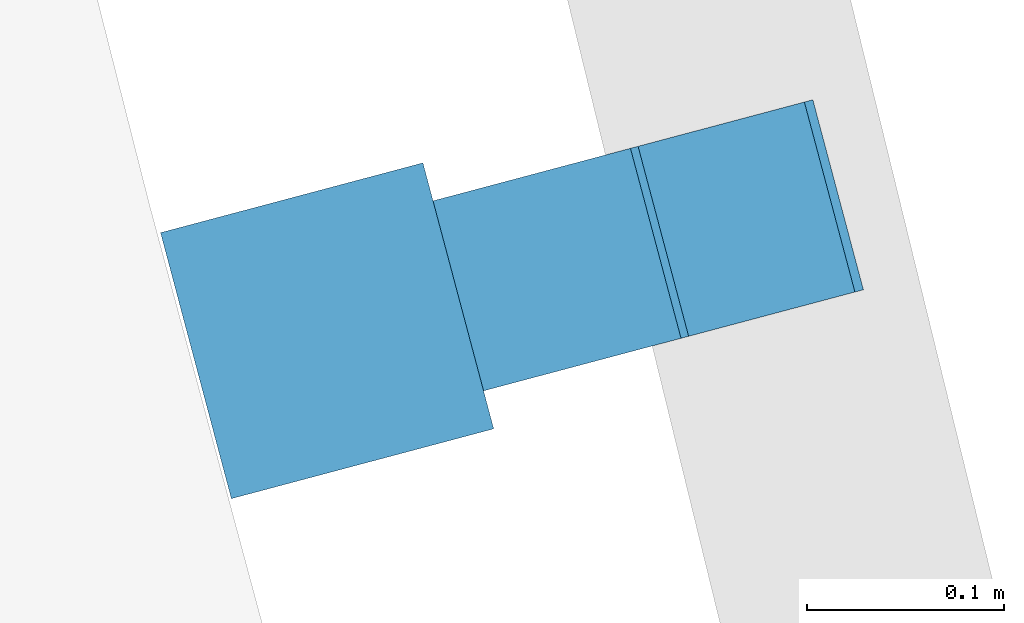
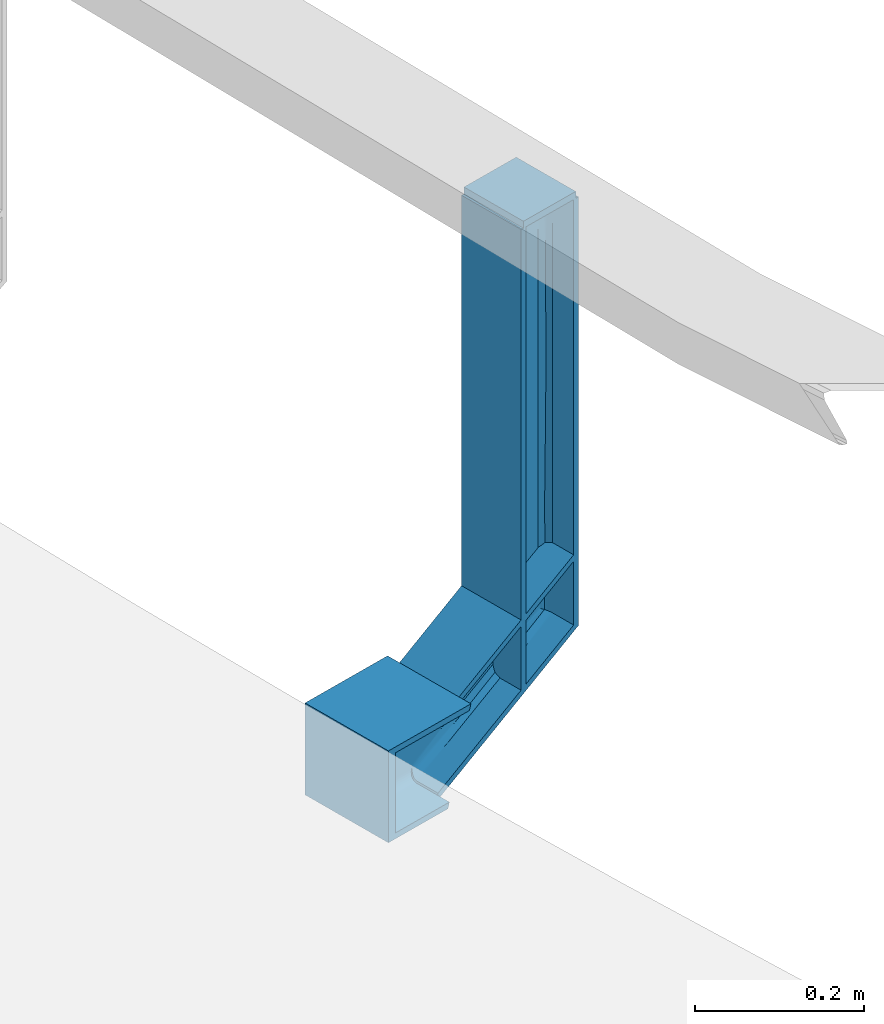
# One storey, part 37 of 68: 1 beam.
"""IFC2X3 building model written with IfcOpenShell, lengths in millimetres."""

from ifc_helpers import new_model, entity, si_unit, converted_unit, derived_unit, direction, frame, origin, place, context, subcontext, project, spatial, faceted_brep, source, transform, mapped, material, type_object, type_shapes, element, save


model = new_model("IFC2X3")

# Units and contexts
model_context = context("Model", 3, precision=0.01, world=origin(), true_north=direction((6.12303176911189e-17, 1.0)))
body_context = subcontext(model_context, "Body", "Model", "MODEL_VIEW")
ifc_project = project(units=[si_unit("LENGTHUNIT", "METRE", prefix="MILLI"), si_unit("AREAUNIT", "SQUARE_METRE", prefix="MILLI"), si_unit("VOLUMEUNIT", "CUBIC_METRE"), converted_unit("PLANEANGLEUNIT", "DEGREE", entity("IfcRatioMeasure", 0.0174532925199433), si_unit("PLANEANGLEUNIT", "RADIAN"), dimensions=[0, 0, 0, 0, 0, 0, 0]), si_unit("MASSUNIT", "GRAM", prefix="KILO"), derived_unit("MASSDENSITYUNIT", [(si_unit("MASSUNIT", "GRAM", prefix="KILO"), 1), (si_unit("LENGTHUNIT", "METRE"), -3)]), derived_unit("MOMENTOFINERTIAUNIT", [(si_unit("LENGTHUNIT", "METRE"), 4)]), si_unit("TIMEUNIT", "SECOND"), si_unit("FREQUENCYUNIT", "HERTZ"), si_unit("THERMODYNAMICTEMPERATUREUNIT", "DEGREE_CELSIUS"), derived_unit("THERMALTRANSMITTANCEUNIT", [(si_unit("MASSUNIT", "GRAM", prefix="KILO"), 1), (si_unit("THERMODYNAMICTEMPERATUREUNIT", "KELVIN"), -1), (si_unit("TIMEUNIT", "SECOND"), -3)]), derived_unit("VOLUMETRICFLOWRATEUNIT", [(si_unit("LENGTHUNIT", "METRE"), 3), (si_unit("TIMEUNIT", "SECOND"), -1)]), si_unit("ELECTRICCURRENTUNIT", "AMPERE"), si_unit("ELECTRICVOLTAGEUNIT", "VOLT"), si_unit("POWERUNIT", "WATT"), si_unit("FORCEUNIT", "NEWTON", prefix="KILO"), si_unit("ILLUMINANCEUNIT", "LUX"), si_unit("LUMINOUSFLUXUNIT", "LUMEN"), si_unit("LUMINOUSINTENSITYUNIT", "CANDELA"), derived_unit("USERDEFINED", [(si_unit("MASSUNIT", "GRAM", prefix="KILO"), -1), (si_unit("LENGTHUNIT", "METRE"), -2), (si_unit("TIMEUNIT", "SECOND"), 3), (si_unit("LUMINOUSFLUXUNIT", "LUMEN"), 1)]), derived_unit("LINEARVELOCITYUNIT", [(si_unit("LENGTHUNIT", "METRE"), 1), (si_unit("TIMEUNIT", "SECOND"), -1)]), si_unit("PRESSUREUNIT", "PASCAL"), derived_unit("USERDEFINED", [(si_unit("LENGTHUNIT", "METRE"), -2), (si_unit("MASSUNIT", "GRAM", prefix="KILO"), 1), (si_unit("TIMEUNIT", "SECOND"), -2)]), derived_unit("LINEARFORCEUNIT", [(si_unit("MASSUNIT", "GRAM", prefix="KILO"), 1), (si_unit("LENGTHUNIT", "METRE"), 1), (si_unit("TIMEUNIT", "SECOND"), -2), (si_unit("LENGTHUNIT", "METRE"), -1)]), derived_unit("PLANARFORCEUNIT", [(si_unit("MASSUNIT", "GRAM", prefix="KILO"), 1), (si_unit("LENGTHUNIT", "METRE"), 1), (si_unit("TIMEUNIT", "SECOND"), -2), (si_unit("LENGTHUNIT", "METRE"), -2)])], contexts=[model_context])

# Site, building, storey
site_placement = place(None, origin())
site = spatial("IfcSite", under=ifc_project, at=site_placement, Name="Theater aan de Parade", CompositionType="ELEMENT")
building_placement = place(site_placement, origin())
building = spatial("IfcBuilding", under=site, at=building_placement, Name="Theater aan de Parade", CompositionType="ELEMENT")
storey_placement = place(building_placement, frame((0.0, 0.0, 8750.0)))
storey = spatial("IfcBuildingStorey", under=building, at=storey_placement, Name="02 tweede verdieping", CompositionType="ELEMENT", Elevation=8750.0)

# Beam
ifc_material = material(Name="00_PBT_MAT_staal_S355")
beam_type = type_object("IfcBeamType", Name="28_PBT_SF_staal_baluster balkon:baluster HEA100", PredefinedType="BEAM", material=ifc_material)
shared_shape = source(origin(), body_context, "Body", "Brep", [
    faceted_brep([(50.0, 43.537813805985, 625.0), (50.0, 43.537813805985, 635.0), (50.0, -44.0, 635.0), (50.0, -44.0, 625.0), (-50.0, 43.537813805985, 625.0), (-50.0, -44.0, 625.0), (-50.0, -44.0, 635.0), (-50.0, 43.537813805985, 635.0)], [[[0, 1, 2, 3]], [[4, 5, 6, 7]], [[3, 5, 4, 0]], [[2, 6, 5, 3]], [[1, 7, 6, 2]], [[0, 4, 7, 1]]]),
    faceted_brep([(70.0, -278.0, -133.0), (70.0, -278.0, 0.0), (70.0, -290.0, 0.0), (70.0, -290.0, -133.0), (-70.0, -278.0, -133.0), (-70.0, -290.0, -133.0), (-70.0, -290.0, 0.0), (-70.0, -278.0, 0.0)], [[[0, 1, 2, 3]], [[4, 5, 6, 7]], [[3, 5, 4, 0]], [[2, 6, 5, 3]], [[1, 7, 6, 2]], [[0, 4, 7, 1]]]),
    faceted_brep([(70.0, -278.0, -133.0), (70.0, -278.0, -124.5), (14.7499999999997, -278.0, -124.5), (11.6441714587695, -278.0, -124.091109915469), (8.74999999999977, -278.0, -122.892304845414), (6.26471862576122, -278.0, -120.985281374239), (4.35769515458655, -278.0, -118.5), (3.15889008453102, -278.0, -115.60582854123), (2.74999999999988, -278.0, -112.5), (2.74999999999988, -278.0, -20.5000000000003), (3.15889008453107, -278.0, -17.39417145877), (4.35769515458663, -278.0, -14.5000000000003), (6.26471862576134, -278.0, -12.0147186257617), (8.74999999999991, -278.0, -10.107695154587), (11.6441714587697, -278.0, -8.90889008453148), (14.7499999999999, -278.0, -8.50000000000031), (70.0, -278.0, -8.50000000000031), (70.0, -278.0, 0.0), (-70.0, -278.0, 0.0), (-70.0, -278.0, -8.50000000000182), (-14.7499999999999, -278.0, -8.50000000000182), (-11.6441714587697, -278.0, -8.90889008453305), (-8.74999999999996, -278.0, -10.1076951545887), (-6.26471862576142, -278.0, -12.0147186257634), (-4.35769515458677, -278.0, -14.500000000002), (-3.15889008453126, -278.0, -17.3941714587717), (-2.75000000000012, -278.0, -20.5000000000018), (-2.75000000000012, -278.0, -112.500000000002), (-3.15889008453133, -278.0, -115.605828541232), (-4.3576951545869, -278.0, -118.500000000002), (-6.26471862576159, -278.0, -120.98528137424), (-8.75000000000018, -278.0, -122.892304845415), (-11.6441714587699, -278.0, -124.091109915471), (-14.7500000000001, -278.0, -124.500000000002), (-70.0, -278.0, -124.500000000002), (-70.0, -278.0, -133.0), (70.0, -154.37480362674, -8.50000000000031), (70.0, -151.923048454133, 0.0), (70.0, -190.285805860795, -133.0), (70.0, -187.834050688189, -124.5), (14.7499999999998, -214.852904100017, -8.50000000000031), (14.7499999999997, -154.37480362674, -8.50000000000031), (-70.0, -154.37480362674, -8.50000000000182), (-14.7500000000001, -154.37480362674, -8.50000000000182), (-14.7500000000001, -214.852905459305, -8.50000000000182), (6.43965673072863, -216.327371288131, -11.8433150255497), (2.74999999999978, -217.521904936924, -20.5000000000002), (12.079748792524, -154.461585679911, -8.8008650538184), (9.5433951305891, -154.717580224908, -9.68837358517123), (5.36802221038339, -155.678018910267, -13.0181223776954), (7.26812237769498, -155.129950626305, -11.1180222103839), (2.74999999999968, -157.83610504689, -20.5000000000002), (3.05086505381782, -157.065893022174, -17.8297487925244), (3.9383735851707, -156.334302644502, -15.2933951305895), (2.74999999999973, -184.372749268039, -112.5), (3.93837358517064, -185.874551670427, -117.706604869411), (3.05086505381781, -185.142961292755, -115.170251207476), (5.36802221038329, -186.530835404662, -119.981877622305), (7.26812237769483, -187.078903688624, -121.881977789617), (9.54339513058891, -187.491274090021, -123.311626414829), (12.0797487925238, -187.747268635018, -124.199134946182), (14.7499999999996, -187.834050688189, -124.5), (-14.7500000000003, -187.83405068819, -124.500000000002), (-70.0, -187.83405068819, -124.500000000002), (-70.0, -190.285805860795, -133.0), (-70.0, -151.923048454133, 0.0), (-9.54339513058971, -187.491274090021, -123.311626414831), (-12.0797487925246, -187.747268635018, -124.199134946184), (-7.2681223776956, -187.078903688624, -121.881977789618), (-5.36802221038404, -186.530835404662, -119.981877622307), (-3.93837358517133, -185.874551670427, -117.706604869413), (-3.05086505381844, -185.142961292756, -115.170251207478), (-2.75000000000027, -184.37274926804, -112.500000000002), (-2.75000000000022, -217.521899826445, -20.500000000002), (-2.75000000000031, -157.83610504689, -20.500000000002), (-6.43965718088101, -216.327373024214, -11.8433145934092), (-3.05086505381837, -157.065893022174, -17.8297487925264), (-3.93837358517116, -156.334302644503, -15.2933951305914), (-7.2681223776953, -155.129950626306, -11.1180222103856), (-5.36802221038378, -155.678018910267, -13.0181223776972), (-12.0797487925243, -154.461585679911, -8.80086505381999), (-9.54339513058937, -154.717580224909, -9.68837358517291)], [[[0, 1, 2, 3, 4, 5, 6, 7, 8, 9, 10, 11, 12, 13, 14, 15, 16, 17, 18, 19, 20, 21, 22, 23, 24, 25, 26, 27, 28, 29, 30, 31, 32, 33, 34, 35]], [[36, 37, 17, 16]], [[38, 39, 1, 0]], [[36, 16, 15, 40, 41]], [[19, 42, 43, 44, 20]], [[13, 45, 14]], [[12, 45, 13]], [[46, 45, 11]], [[47, 41, 40]], [[14, 40, 15]], [[45, 12, 11]], [[48, 47, 40]], [[49, 50, 45]], [[10, 9, 46]], [[40, 45, 48]], [[11, 10, 46]], [[46, 51, 52]], [[53, 46, 52]], [[46, 53, 45]], [[45, 53, 49]], [[45, 50, 48]], [[14, 45, 40]], [[54, 51, 46, 9, 8]], [[7, 6, 55]], [[8, 7, 56]], [[56, 54, 8]], [[57, 55, 6]], [[56, 7, 55]], [[6, 5, 57]], [[58, 5, 4]], [[59, 4, 3]], [[60, 3, 2]], [[59, 58, 4]], [[61, 60, 2]], [[59, 3, 60]], [[5, 58, 57]], [[39, 61, 2, 1]], [[62, 63, 34, 33]], [[38, 0, 35, 64]], [[64, 35, 34, 63]], [[42, 19, 18, 65]], [[32, 31, 66]], [[33, 32, 67]], [[67, 62, 33]], [[68, 66, 31]], [[67, 32, 66]], [[31, 30, 68]], [[69, 30, 29]], [[70, 29, 28]], [[71, 28, 27]], [[70, 69, 29]], [[72, 71, 27]], [[70, 28, 71]], [[30, 69, 68]], [[72, 27, 26, 73, 74]], [[25, 24, 73]], [[24, 23, 75]], [[75, 22, 21]], [[76, 74, 73]], [[75, 23, 22]], [[73, 77, 76]], [[78, 79, 75]], [[44, 80, 81]], [[73, 75, 77]], [[25, 73, 26]], [[21, 44, 75]], [[21, 20, 44]], [[43, 80, 44]], [[44, 81, 75]], [[78, 75, 81]], [[75, 79, 77]], [[73, 24, 75]], [[37, 65, 18, 17]], [[39, 38, 64, 63, 62, 67, 66, 68, 69, 70, 71, 72, 74, 76, 77, 79, 78, 81, 80, 43, 42, 65, 37, 36, 41, 47, 48, 50, 49, 53, 52, 51, 54, 56, 55, 57, 58, 59, 60, 61]]]),
    faceted_brep([(50.0, 48.0, 106.188021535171), (50.0, 48.0, 115.425625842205), (50.0, -151.923048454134, 0.0), (50.0, -155.119944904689, -11.0833333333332), (50.0, 48.0, 4.57437415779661), (50.0, 48.0, 13.8119784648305), (50.0, -187.08890941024, -121.916666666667), (50.0, -190.285805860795, -133.0), (14.4999999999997, -155.119944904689, -11.0833333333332), (14.4999999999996, -56.7511342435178, 45.7099259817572), (14.4999999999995, -4.37557443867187, 75.9489695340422), (14.4999999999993, 48.0, 106.188021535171), (-50.0, -155.119944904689, -11.0833333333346), (-50.0, 48.0, 106.188021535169), (-14.5000000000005, 48.0, 106.188021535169), (-14.5000000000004, -4.37556718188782, 75.9489737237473), (-14.5000000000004, -56.7511343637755, 45.7099259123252), (-14.5000000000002, -155.119944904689, -11.0833333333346), (9.9077988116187, -155.484968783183, -12.348836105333), (6.13940978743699, -85.6560198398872, 25.1051305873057), (12.1589161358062, -155.212086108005, -11.4027780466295), (2.49999999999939, -4.37556820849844, 62.0925666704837), (2.49999999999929, 48.0, 92.3316150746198), (2.80086505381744, 48.0, 95.4149555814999), (6.04197655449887, -10.2229142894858, 68.5459327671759), (2.49999999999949, -55.1641531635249, 32.769763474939), (2.73057663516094, -158.979764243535, -24.4649567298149), (2.49999999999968, -159.915289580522, -27.7083333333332), (2.49999999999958, -107.539721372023, 2.53071507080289), (7.83315720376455, -155.92810620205, -13.8851510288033), (11.8297487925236, 48.0, 105.840612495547), (4.52236465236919, -157.25113882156, -18.4719782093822), (3.41344560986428, -158.0801906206, -21.3462212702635), (5.11802221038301, 48.0, 100.970943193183), (7.01812237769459, 48.0, 103.164989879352), (3.68837358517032, 48.0, 98.3436845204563), (9.29339513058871, 48.0, 104.815805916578), (6.01471862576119, -156.524468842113, -15.9526830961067), (2.49999999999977, -182.293564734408, -105.291666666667), (2.49999999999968, -129.917998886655, -75.052619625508), (2.49999999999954, -56.7511354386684, -32.8097113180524), (2.49999999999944, -4.3755695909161, -2.57066427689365), (2.49999999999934, 48.0, 27.6683849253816), (6.01471862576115, -185.684385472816, -117.047316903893), (6.30956465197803, -103.743785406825, -70.0679088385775), (4.52236465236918, -184.957715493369, -114.528021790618), (7.83315720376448, -186.280748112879, -119.114848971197), (9.90779881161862, -186.723885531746, -120.651163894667), (14.4999999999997, -134.713341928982, -91.677618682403), (12.1589161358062, -186.996768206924, -121.597221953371), (14.4999999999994, -4.37556748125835, -16.4270695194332), (5.87838992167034, -26.389988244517, -24.9186641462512), (14.4999999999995, -69.5444547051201, -54.0523441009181), (5.11802221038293, 48.0, 19.0290568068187), (3.4134456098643, -184.128663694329, -111.653778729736), (2.80086505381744, 48.0, 24.5850444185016), (3.68837358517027, 48.0, 21.6563154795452), (14.4999999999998, -187.08890941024, -121.916666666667), (7.01812237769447, 48.0, 16.8350101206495), (9.29339513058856, 48.0, 15.1841940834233), (2.73057663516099, -183.229090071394, -108.535043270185), (11.8297487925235, 48.0, 14.1593875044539), (14.4999999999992, 48.0, 13.8119784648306), (-50.0, -187.088909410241, -121.916666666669), (-14.5000000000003, -187.088909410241, -121.916666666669), (-14.5000000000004, -134.713341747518, -91.6776185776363), (-14.5000000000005, -69.544456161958, -54.0523449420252), (-14.5000000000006, -4.37556766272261, -16.427069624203), (-14.5000000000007, 48.0, 13.8119784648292), (-50.0, 48.0, 13.8119784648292), (-50.0, -190.285805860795, -133.0), (-50.0, 48.0, 4.57437415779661), (-50.0, -151.923048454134, 0.0), (-50.0, 48.0, 115.425625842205), (-6.30956482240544, -103.743788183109, -70.0679106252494), (-4.52236465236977, -184.95771549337, -114.52802179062), (-3.41344560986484, -184.128663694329, -111.653778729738), (-2.50000000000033, -129.917995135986, -75.0526174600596), (-5.87838988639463, -26.3899865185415, -24.9186631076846), (-7.01812237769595, 48.0, 16.835010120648), (-9.29339513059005, 48.0, 15.1841940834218), (-6.01471862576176, -185.684385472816, -117.047316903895), (-7.8331572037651, -186.28074811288, -119.114848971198), (-11.829748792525, 48.0, 14.1593875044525), (-2.50000000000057, -4.37556959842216, -2.57066428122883), (-5.11802221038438, 48.0, 19.0290568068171), (-2.7305766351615, -183.229090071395, -108.535043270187), (-2.50000000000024, -182.293564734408, -105.291666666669), (-9.90779881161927, -186.723885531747, -120.651163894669), (-12.1589161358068, -186.996768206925, -121.597221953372), (-2.50000000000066, 48.0, 27.6683849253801), (-2.80086505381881, 48.0, 24.5850444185), (-2.50000000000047, -56.7511295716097, -32.809707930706), (-3.68837358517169, 48.0, 21.6563154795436), (-2.50000000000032, -159.915289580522, -27.708333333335), (-2.50000000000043, -107.539724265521, 2.53071340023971), (-2.50000000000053, -55.1641511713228, 32.7697646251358), (-2.50000000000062, -4.37556531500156, 62.0925683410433), (-2.50000000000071, 48.0, 92.3316150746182), (-2.73057663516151, -158.979764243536, -24.464956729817), (-11.8297487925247, 48.0, 105.840612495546), (-7.83315720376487, -155.92810620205, -13.885151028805), (-6.13940988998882, -85.6560228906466, 25.1051289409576), (-6.01471862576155, -156.524468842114, -15.9526830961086), (-6.04197656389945, -10.2229155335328, 68.5459320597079), (-7.0181223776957, 48.0, 103.16498987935), (-5.11802221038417, 48.0, 100.970943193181), (-9.90779881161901, -155.484968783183, -12.3488361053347), (-4.52236465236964, -157.25113882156, -18.4719782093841), (-3.68837358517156, 48.0, 98.3436845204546), (-2.80086505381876, 48.0, 95.4149555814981), (-12.1589161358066, -155.212086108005, -11.402778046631), (-3.41344560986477, -158.080190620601, -21.3462212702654), (-9.29339513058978, 48.0, 104.815805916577)], [[[0, 1, 2, 3]], [[4, 5, 6, 7]], [[0, 3, 8, 9, 10, 11]], [[12, 13, 14, 15, 16, 17]], [[18, 19, 20]], [[21, 22, 23]], [[24, 25, 21]], [[26, 27, 28]], [[19, 18, 29]], [[25, 19, 28]], [[9, 24, 10]], [[20, 9, 8]], [[19, 9, 20]], [[19, 24, 9]], [[25, 24, 19]], [[30, 11, 10]], [[28, 31, 32]], [[24, 33, 34]], [[33, 24, 35]], [[35, 24, 21]], [[36, 24, 34]], [[28, 32, 26]], [[31, 19, 37]], [[30, 10, 36]], [[31, 28, 19]], [[35, 21, 23]], [[36, 10, 24]], [[37, 19, 29]], [[27, 38, 39, 40, 41, 42, 22, 21, 25, 28]], [[43, 44, 45]], [[46, 47, 48]], [[48, 47, 49]], [[50, 51, 52]], [[53, 41, 51]], [[54, 45, 44]], [[55, 42, 41]], [[55, 41, 56]], [[49, 57, 48]], [[40, 39, 44]], [[58, 53, 51]], [[43, 46, 44]], [[51, 59, 58]], [[39, 54, 44]], [[54, 39, 60]], [[40, 44, 51]], [[61, 50, 62]], [[41, 40, 51]], [[44, 48, 52]], [[44, 46, 48]], [[56, 41, 53]], [[39, 38, 60]], [[59, 50, 61]], [[51, 44, 52]], [[51, 50, 59]], [[5, 62, 50, 52, 48, 57, 6]], [[63, 64, 65, 66, 67, 68, 69]], [[4, 7, 70, 71]], [[71, 70, 63, 69]], [[13, 12, 72, 73]], [[66, 65, 74]], [[75, 76, 74]], [[77, 74, 76]], [[78, 79, 80]], [[81, 74, 82]], [[83, 67, 80]], [[78, 84, 85]], [[86, 87, 77]], [[88, 82, 65]], [[88, 65, 89]], [[84, 90, 91]], [[66, 74, 78]], [[78, 80, 67]], [[92, 78, 74]], [[83, 68, 67]], [[84, 78, 92]], [[93, 84, 91]], [[93, 85, 84]], [[74, 65, 82]], [[78, 85, 79]], [[64, 89, 65]], [[74, 81, 75]], [[74, 77, 92]], [[86, 77, 76]], [[66, 78, 67]], [[94, 95, 96, 97, 98, 90, 84, 92, 77, 87]], [[94, 99, 95]], [[15, 14, 100]], [[101, 102, 103]], [[104, 105, 106]], [[107, 102, 101]], [[103, 102, 108]], [[16, 104, 102]], [[104, 96, 102]], [[102, 95, 108]], [[109, 110, 97]], [[107, 111, 102]], [[96, 104, 97]], [[109, 104, 106]], [[112, 95, 99]], [[16, 15, 104]], [[95, 112, 108]], [[113, 15, 100]], [[16, 102, 111]], [[97, 104, 109]], [[102, 96, 95]], [[113, 104, 15]], [[111, 17, 16]], [[105, 104, 113]], [[110, 98, 97]], [[1, 73, 72, 2]], [[5, 4, 71, 69, 68, 83, 80, 79, 85, 93, 91, 90, 98, 110, 109, 106, 105, 113, 100, 14, 13, 73, 1, 0, 11, 30, 36, 34, 33, 35, 23, 22, 42, 55, 56, 53, 58, 59, 61, 62]], [[3, 2, 72, 12, 17, 111, 107, 101, 103, 108, 112, 99, 94, 87, 86, 76, 75, 81, 82, 88, 89, 64, 63, 70, 7, 6, 57, 49, 47, 46, 43, 45, 54, 60, 38, 27, 26, 32, 31, 37, 29, 18, 20, 8]]]),
    faceted_brep([(50.0, -48.0, 625.0), (50.0, -40.0, 625.0), (14.4999999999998, -40.0, 625.0), (11.3941714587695, -39.5911099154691, 625.0), (8.4999999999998, -38.3923048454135, 625.0), (6.01471862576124, -36.4852813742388, 625.0), (4.10769515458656, -34.0, 625.0), (2.90889008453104, -31.1058285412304, 625.0), (2.49999999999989, -28.0, 625.0), (2.49999999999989, 28.0, 625.0), (2.90889008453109, 31.10582854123, 625.0), (4.10769515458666, 34.0, 625.0), (6.01471862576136, 36.4852813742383, 625.0), (8.49999999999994, 38.392304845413, 625.0), (11.3941714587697, 39.5911099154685, 625.0), (14.4999999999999, 40.0, 625.0), (50.0, 40.0, 625.0), (50.0, 48.0, 625.0), (-50.0, 48.0, 625.0), (-50.0, 40.0, 625.0), (-14.4999999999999, 40.0, 625.0), (-11.3941714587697, 39.5911099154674, 625.0), (-8.49999999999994, 38.3923048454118, 625.0), (-6.01471862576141, 36.4852813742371, 625.0), (-4.10769515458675, 34.0, 625.0), (-2.90889008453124, 31.1058285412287, 625.0), (-2.50000000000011, 28.0, 625.0), (-2.5000000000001, -28.0, 625.0), (-2.90889008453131, -31.1058285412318, 625.0), (-4.10769515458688, -34.0, 625.0), (-6.01471862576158, -36.4852813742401, 625.0), (-8.50000000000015, -38.3923048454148, 625.0), (-11.3941714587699, -39.5911099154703, 625.0), (-14.5000000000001, -40.0, 625.0), (-50.0, -40.0, 625.0), (-50.0, -48.0, 625.0), (50.0, 48.0, 165.0), (50.0, 40.0, -0.0444279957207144), (50.0, 48.0, 4.57437415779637), (50.0, -40.0, -46.2324495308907), (50.0, -48.0, -50.8512516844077), (14.4999999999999, 40.0, 564.521909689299), (14.4999999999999, 40.0, 468.738898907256), (14.4999999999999, 40.0, 390.608336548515), (14.4999999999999, 40.0, 312.477797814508), (14.4999999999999, 40.0, 234.347235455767), (14.4999999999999, 40.0, 156.216673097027), (14.4999999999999, 40.0, 60.4336623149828), (14.4999999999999, 40.0, -0.0444279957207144), (-50.0, 40.0, -0.0444279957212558), (-14.4999999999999, 40.0, -0.0444279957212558), (-14.4999999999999, 40.0, 60.4336769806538), (-14.4999999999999, 40.0, 156.21667900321), (-14.5, 40.0, 234.34724221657), (-14.5, 40.0, 312.477786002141), (-14.5, 40.0, 390.608329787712), (-14.5, 40.0, 468.738893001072), (-14.5, 40.0, 564.521895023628), (6.01471822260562, 36.4852809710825, 534.282851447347), (2.49999999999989, 28.0, 504.043808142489), (2.49999999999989, 28.0, 429.969876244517), (6.38111782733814, 36.8365011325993, 422.595542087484), (9.29339513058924, 38.8116264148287, -0.730535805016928), (5.87838991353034, 36.3467262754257, 83.7445110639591), (7.01812237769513, 37.3819777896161, -1.55594382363), (2.49999999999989, 28.0, 564.521899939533), (5.11802221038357, 35.4818776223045, -2.65296716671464), (11.8297487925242, 39.6991349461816, -0.21813251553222), (6.03175640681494, 36.5022850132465, 273.412504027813), (5.33717277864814, 35.7487158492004, 157.721305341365), (2.49999999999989, 28.0, 113.983560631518), (2.49999999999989, 28.0, 53.5054688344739), (2.49999999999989, 28.0, -6.97263122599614), (2.80086505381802, 30.6702512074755, -5.43096097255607), (6.45584074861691, 36.9045775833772, 351.543056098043), (3.68837358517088, 33.2066048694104, -3.96659650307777), (2.49999999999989, 28.0, 234.939752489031), (2.49999999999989, 28.0, 174.461652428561), (2.49999999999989, 28.0, 332.454810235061), (2.49999999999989, -28.0, 564.521918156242), (2.49999999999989, -28.0, 504.043820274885), (2.49999999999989, -28.0, 443.565722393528), (2.49999999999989, -28.0, 383.08762451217), (2.49999999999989, -28.0, 277.489656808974), (2.49999999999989, -28.0, 171.891689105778), (2.49999999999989, -28.0, 81.6519494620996), (2.49999999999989, -28.0, 21.1738515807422), (2.49999999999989, -28.0, -39.3042463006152), (14.4999999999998, -40.0, 564.521903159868), (14.4999999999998, -40.0, 457.191883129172), (6.01471890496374, -36.4852816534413, 534.282850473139), (14.4999999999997, -40.0, 14.24565628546), (5.87838987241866, -36.3467262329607, 51.4128968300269), (14.4999999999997, -40.0, 74.723753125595), (14.4999999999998, -40.0, 182.053764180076), (7.12980766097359, -37.469966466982, 128.3887480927), (14.4999999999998, -40.0, 373.287829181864), (14.4999999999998, -40.0, 289.383775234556), (5.68142979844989, -36.138354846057, 331.33579860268), (6.48410362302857, -36.9300282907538, 264.631830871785), (5.11802221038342, -35.481877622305, -43.6239103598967), (3.68837358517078, -33.2066048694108, -42.3102810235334), (14.4999999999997, -40.0, -46.2324495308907), (11.8297487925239, -39.6991349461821, -46.058745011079), (9.29339513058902, -38.8116264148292, -45.5463417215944), (7.01812237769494, -37.3819777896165, -44.7209337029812), (5.85986411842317, -36.3275477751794, 197.731198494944), (5.34384824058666, -35.7566026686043, 460.437179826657), (2.80086505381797, -30.6702512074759, -40.8459165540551), (6.59968170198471, -37.0324399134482, 396.193688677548), (-50.0, -40.0, -46.2324495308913), (-14.5000000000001, -40.0, 564.521911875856), (-14.5000000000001, -40.0, 457.191887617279), (-14.5000000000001, -40.0, 373.287826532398), (-14.5000000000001, -40.0, 289.383775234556), (-14.5000000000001, -40.0, 205.479723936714), (-14.5000000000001, -40.0, 121.575662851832), (-14.5000000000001, -40.0, 14.2456483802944), (-14.5000000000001, -40.0, -46.2324495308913), (-50.0, -48.0, -50.8512516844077), (-50.0, 48.0, 165.0), (-50.0, 48.0, 4.57437415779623), (-6.01471845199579, -36.4852812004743, 534.282853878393), (-2.5000000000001, -28.0, 504.043796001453), (-5.34384807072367, -35.7566024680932, 460.437182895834), (-2.5000000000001, -28.0, 564.521907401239), (-9.29339513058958, -38.8116264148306, -45.5463417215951), (-7.01812237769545, -37.3819777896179, -44.720933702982), (-6.37223200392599, -36.8283286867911, 262.824412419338), (-5.68142973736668, -36.1383547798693, 331.33579885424), (-6.59968165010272, -37.0324398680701, 396.193689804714), (-2.5000000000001, -28.0, 383.087610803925), (-11.8297487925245, -39.6991349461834, -46.0587450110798), (-5.11802221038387, -35.4818776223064, -43.6239103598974), (-6.18948395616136, -36.6565191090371, 51.4128959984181), (-3.68837358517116, -33.2066048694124, -42.3102810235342), (-2.5000000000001, -28.0, 21.1738462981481), (-2.80086505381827, -30.6702512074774, -40.8459165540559), (-5.35181665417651, -35.7659990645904, 125.002033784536), (-2.5000000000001, -28.0, 81.6519388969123), (-2.5000000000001, -28.0, -39.304246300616), (-2.5000000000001, -28.0, 277.489641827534), (-2.5000000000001, -28.0, 443.565703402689), (-2.5000000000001, -28.0, 171.891672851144), (-5.88018165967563, -36.3485766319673, 194.135386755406), (-2.50000000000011, 28.0, 564.521898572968), (-2.50000000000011, 28.0, 504.043797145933), (-2.50000000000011, 28.0, 429.969878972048), (-2.50000000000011, 28.0, 332.454826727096), (-2.50000000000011, 28.0, 234.939757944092), (-2.50000000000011, 28.0, 174.461656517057), (-2.50000000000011, 28.0, 113.983555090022), (-2.50000000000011, 28.0, 53.5054536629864), (-2.50000000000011, 28.0, -6.97263122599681), (-5.87838991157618, 36.3467262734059, 83.7445122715), (-9.29339513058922, 38.8116264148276, -0.730535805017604), (-5.33717271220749, 35.7487157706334, 157.721307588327), (-6.01471873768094, 36.4852814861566, 534.282853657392), (-6.38111797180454, 36.8365012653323, 422.595548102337), (-6.45584072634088, 36.9045775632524, 351.543059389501), (-3.688373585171, 33.2066048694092, -3.96659650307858), (-2.80086505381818, 30.6702512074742, -5.43096097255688), (-7.01812237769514, 37.3819777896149, -1.55594382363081), (-5.11802221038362, 35.4818776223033, -2.65296716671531), (-6.03175635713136, 36.5022849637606, 273.412506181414), (-11.8297487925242, 39.6991349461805, -0.218132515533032)], [[[0, 1, 2, 3, 4, 5, 6, 7, 8, 9, 10, 11, 12, 13, 14, 15, 16, 17, 18, 19, 20, 21, 22, 23, 24, 25, 26, 27, 28, 29, 30, 31, 32, 33, 34, 35]], [[36, 17, 16, 37, 38]], [[39, 1, 0, 40]], [[37, 16, 15, 41, 42, 43, 44, 45, 46, 47, 48]], [[19, 49, 50, 51, 52, 53, 54, 55, 56, 57, 20]], [[13, 12, 58]], [[11, 58, 12]], [[58, 42, 41]], [[59, 60, 61]], [[62, 63, 64]], [[65, 11, 10]], [[66, 64, 63]], [[67, 48, 47]], [[45, 68, 69]], [[69, 70, 63]], [[65, 59, 58]], [[46, 63, 47]], [[63, 46, 69]], [[67, 47, 62]], [[41, 15, 14]], [[71, 72, 73]], [[58, 41, 13]], [[44, 74, 68]], [[43, 74, 44]], [[58, 11, 65]], [[13, 41, 14]], [[75, 71, 73]], [[47, 63, 62]], [[71, 63, 70]], [[75, 66, 71]], [[59, 61, 58]], [[63, 71, 66]], [[10, 9, 65]], [[44, 68, 45]], [[69, 76, 77, 70]], [[69, 46, 45]], [[68, 78, 76]], [[74, 60, 78]], [[69, 68, 76]], [[74, 43, 61]], [[60, 74, 61]], [[68, 74, 78]], [[43, 42, 61]], [[58, 61, 42]], [[8, 79, 80, 81, 82, 83, 84, 85, 86, 87, 72, 71, 70, 77, 76, 78, 60, 59, 65, 9]], [[3, 88, 4]], [[88, 89, 90]], [[91, 92, 93]], [[4, 90, 5]], [[92, 86, 85]], [[94, 93, 95]], [[5, 90, 6]], [[96, 97, 98]], [[99, 98, 97]], [[92, 100, 101]], [[90, 80, 79]], [[6, 79, 7]], [[86, 92, 101]], [[91, 102, 103]], [[104, 91, 103]], [[90, 79, 6]], [[92, 105, 100]], [[104, 105, 91]], [[99, 94, 106]], [[90, 4, 88]], [[80, 90, 107]], [[3, 2, 88]], [[101, 108, 86]], [[108, 87, 86]], [[92, 91, 105]], [[79, 8, 7]], [[94, 95, 106]], [[85, 84, 95]], [[107, 90, 89]], [[85, 95, 92]], [[92, 95, 93]], [[106, 95, 84]], [[89, 96, 109]], [[109, 81, 107]], [[81, 109, 82]], [[96, 98, 109]], [[83, 82, 98]], [[84, 83, 106]], [[83, 98, 99]], [[94, 99, 97]], [[83, 99, 106]], [[82, 109, 98]], [[81, 80, 107]], [[89, 109, 107]], [[1, 39, 102, 91, 93, 94, 97, 96, 89, 88, 2]], [[110, 34, 33, 111, 112, 113, 114, 115, 116, 117, 118]], [[119, 40, 0, 35]], [[110, 119, 35, 34]], [[120, 121, 49, 19, 18]], [[122, 31, 30]], [[122, 111, 31]], [[122, 123, 124]], [[122, 125, 123]], [[126, 117, 127]], [[111, 33, 32]], [[31, 111, 32]], [[112, 122, 124]], [[128, 114, 129]], [[130, 131, 129]], [[132, 118, 117]], [[133, 127, 134]], [[29, 122, 30]], [[117, 116, 134]], [[135, 133, 134]], [[135, 136, 137]], [[122, 112, 111]], [[134, 136, 135]], [[134, 138, 139]], [[136, 134, 139]], [[29, 125, 122]], [[140, 137, 136]], [[132, 117, 126]], [[28, 27, 125]], [[134, 127, 117]], [[125, 29, 28]], [[138, 134, 116]], [[131, 141, 129]], [[124, 123, 142]], [[130, 112, 124]], [[113, 129, 114]], [[130, 129, 113]], [[143, 139, 138]], [[116, 115, 144]], [[144, 138, 116]], [[138, 144, 143]], [[128, 141, 144]], [[128, 115, 114]], [[141, 143, 144]], [[141, 128, 129]], [[115, 128, 144]], [[112, 130, 113]], [[130, 142, 131]], [[130, 124, 142]], [[27, 26, 145, 146, 147, 148, 149, 150, 151, 152, 153, 140, 136, 139, 143, 141, 131, 142, 123, 125]], [[22, 21, 57]], [[154, 51, 155]], [[154, 151, 156]], [[146, 145, 157]], [[23, 157, 24]], [[23, 22, 157]], [[158, 55, 159]], [[57, 56, 157]], [[152, 160, 161]], [[52, 154, 156]], [[21, 20, 57]], [[24, 145, 25]], [[25, 145, 26]], [[162, 163, 154]], [[158, 159, 147]], [[157, 145, 24]], [[161, 153, 152]], [[154, 155, 162]], [[152, 151, 154]], [[154, 163, 152]], [[148, 159, 164]], [[51, 50, 165]], [[51, 154, 52]], [[157, 22, 57]], [[152, 163, 160]], [[155, 51, 165]], [[157, 56, 158]], [[157, 158, 146]], [[156, 151, 150, 149]], [[164, 156, 149]], [[164, 54, 53]], [[53, 52, 156]], [[156, 164, 53]], [[54, 159, 55]], [[148, 164, 149]], [[164, 159, 54]], [[147, 159, 148]], [[158, 147, 146]], [[56, 55, 158]], [[120, 18, 17, 36, 38, 121]], [[39, 40, 119, 110, 118, 132, 126, 127, 133, 135, 137, 140, 153, 161, 160, 163, 162, 155, 165, 50, 49, 121, 38, 37, 48, 67, 62, 64, 66, 75, 73, 72, 87, 108, 101, 100, 105, 104, 103, 102]]]),
])
type_shapes(beam_type, [shared_shape])
beam_placement = place(storey_placement, frame((53978.9305554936, 27582.1624311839, -2040.0), z_axis=(0.0, 0.0, 1.0), x_axis=(0.257182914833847, -0.966362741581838, 0.0)))
element("IfcBeam", 1, at=beam_placement, inside=storey, type_object=beam_type, material=ifc_material, Name="28_PBT_SF_staal_baluster balkon:baluster HEA100", ObjectType="28_PBT_SF_staal_baluster balkon:baluster HEA100", context=body_context, shape_type="MappedRepresentation", body=[
    mapped(shared_shape, transform((0.0, 0.0, 0.0), scale=1.0)),
])

save(model, "model.ifc")
